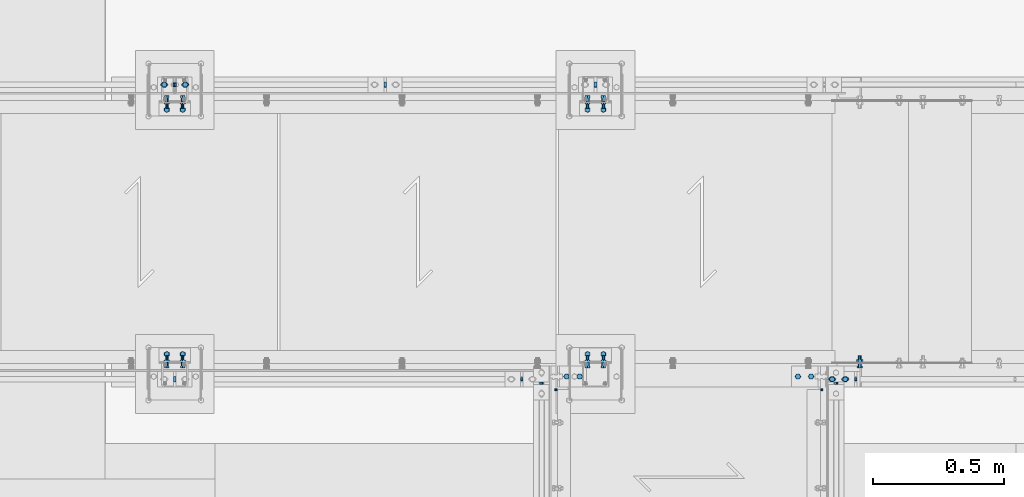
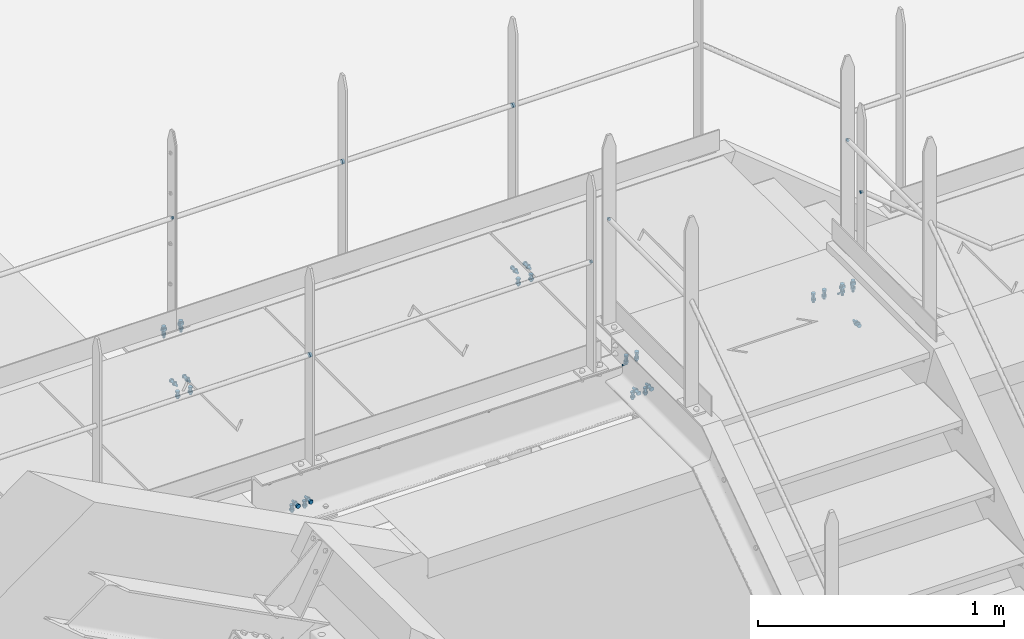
# One storey, part 302 of 362: 25 mechanical fasteners.
"""IFC2X3 building model written with IfcOpenShell, lengths in millimetres."""

from ifc_helpers import new_model, si_unit, frame, frame_2d, origin_with_axes, origin_2d_with_axis, place, context, subcontext, project, spatial, polyline, circle_curve, parameter, trimmed, segment, composite_curve, circle, outline, extrude, source, transform, mapped, material, type_object, element, save


model = new_model("IFC2X3")

# Units and contexts
model_context = context("Model", 3, precision=1e-05, world=origin_with_axes())
body_context = subcontext(model_context, "Body", "Model", "MODEL_VIEW")
ifc_project = project(units=[si_unit("LENGTHUNIT", "METRE", prefix="MILLI"), si_unit("AREAUNIT", "SQUARE_METRE"), si_unit("VOLUMEUNIT", "CUBIC_METRE"), si_unit("MASSUNIT", "GRAM", prefix="KILO"), si_unit("TIMEUNIT", "SECOND"), si_unit("PLANEANGLEUNIT", "RADIAN"), si_unit("SOLIDANGLEUNIT", "STERADIAN"), si_unit("THERMODYNAMICTEMPERATUREUNIT", "DEGREE_CELSIUS"), si_unit("LUMINOUSINTENSITYUNIT", "LUMEN")], contexts=[model_context])

# Site, building, storey
site_placement = place(None, origin_with_axes())
site = spatial("IfcSite", under=ifc_project, at=site_placement, Name="Undefined", CompositionType="ELEMENT")
building_placement = place(site_placement, origin_with_axes())
building = spatial("IfcBuilding", under=site, at=building_placement, Name="Undefined", CompositionType="ELEMENT")
storey_placement = place(building_placement, origin_with_axes())
storey = spatial("IfcBuildingStorey", under=building, at=storey_placement, Name="Undefined", CompositionType="ELEMENT", Elevation=0.0)

# Mechanical fasteners
ifc_material_1 = material(Name="6.8")
mechanical_fastener_type = type_object("IfcMechanicalFastenerType", Name="Bolt assembly")
shared_shape_1 = source(origin_with_axes(), body_context, "Body", "SweptSolid", [
    extrude(circle(Radius=11.0, at=origin_2d_with_axis()), frame((0.0, -5.00000000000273, 0.0), z_axis=(0.0, 1.0, 0.0), x_axis=(1.0, 0.0, 0.0)), (0.0, 0.0, 1.0), 10.1),
])
for number, where, z_axis, x_axis, name in (
    (1, (20054.9961849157, 15970.0000882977, 9243.80000001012), (0.0, 0.0, 1.0), (0.0, 1.0, 0.0), "Bolt assembly"),
    (2, (20854.9961849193, 17089.9938659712, 9243.80000001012), (0.0, 0.0, -1.0), (0.0, -1.0, 0.0), "Bolt assembly"),
    (3, (21654.9961849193, 17089.9938659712, 9243.80000001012), (0.0, 0.0, -1.0), (0.0, -1.0, 0.0), "Bolt assembly"),
):
    element("IfcMechanicalFastener", number, at=place(storey_placement, frame(where, z_axis=z_axis, x_axis=x_axis)), inside=storey, type_object=mechanical_fastener_type, material=ifc_material_1, Name=name, NominalDiameter=20.0, NominalLength=10.0, context=body_context, shape_type="MappedRepresentation", body=[
        mapped(shared_shape_1, transform((0.0, 0.0, 0.0))),
    ])
shared_shape_2 = source(origin_with_axes(), body_context, "Body", "SweptSolid", [
    extrude(circle(Radius=7.0, at=origin_2d_with_axis()), frame((0.0, -5.00000000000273, 0.0), z_axis=(0.0, 1.0, 0.0), x_axis=(1.0, 0.0, 0.0)), (0.0, 0.0, 1.0), 10.1),
])
for number, where, z_axis, x_axis, name in (
    (4, (21374.9851177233, 15970.0000882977, 9243.80000001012), (0.0, 0.0, -1.0), (0.0, 1.0, 0.0), "Bolt assembly"),
    (5, (21449.9863365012, 15954.9996531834, 9438.8), (0.0, 0.0, -1.0), (1.0, 0.0, 0.0), "Bolt assembly"),
    (6, (22569.9936634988, 15954.9996531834, 9438.8), (0.0, 0.0, 1.0), (-1.0, 0.0, 0.0), "Bolt assembly"),
):
    element("IfcMechanicalFastener", number, at=place(storey_placement, frame(where, z_axis=z_axis, x_axis=x_axis)), inside=storey, type_object=mechanical_fastener_type, material=ifc_material_1, Name=name, NominalDiameter=12.0, NominalLength=10.0, context=body_context, shape_type="MappedRepresentation", body=[
        mapped(shared_shape_2, transform((0.0, 0.0, 0.0))),
    ])
ifc_material_2 = material(Name="8.8-SB-GALVA")
shared_shape_3 = source(origin_with_axes(), body_context, "Body", "SweptSolid", [
    extrude(circle(Radius=7.0, at=origin_2d_with_axis()), frame((0.0, -0.100011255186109, 0.0), z_axis=(0.0, 1.0, 0.0), x_axis=(1.0, 0.0, 0.0)), (0.0, 0.0, 1.0), 12.9),
    extrude(outline(composite_curve([segment(polyline([(-7.0, 7.0), (7.0, 7.0)]), True, "CONTINUOUS"), segment(trimmed(circle_curve(frame_2d((7.0, 0.0), x_axis=(0.0, 1.0)), 7.0), [parameter(0.0)], [parameter(3.14159265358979)], False, "PARAMETER"), True, "CONTINUOUS"), segment(polyline([(7.0, -7.0), (-7.0, -7.0)]), True, "CONTINUOUS"), segment(trimmed(circle_curve(frame_2d((-7.0, 0.0), x_axis=(0.0, -1.0)), 7.0), [parameter(0.0)], [parameter(3.14159265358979)], False, "PARAMETER"), True, "DISCONTINUOUS")], self_intersect=False)), frame((0.0, -9.9, 0.0), z_axis=(0.0, 1.0, 0.0), x_axis=(1.0, 0.0, 0.0)), (0.0, 0.0, 1.0), 10.0),
    extrude(outline(polyline([(10.39230484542, 0.0), (5.19615242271, 9.00000000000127), (-5.19615242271, 9.00000000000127), (-10.39230484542, 0.0), (-5.19615242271, -9.00000000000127), (5.19615242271, -9.00000000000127), (10.39230484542, 0.0)])), frame((0.0, -21.88, 0.0), z_axis=(0.0, 1.0, 0.0), x_axis=(1.0, 0.0, 0.0)), (0.0, 0.0, 1.0), 7.92),
    extrude(circle(Radius=6.0, at=origin_2d_with_axis()), frame((0.0, -13.96, 0.0), z_axis=(0.0, 1.0, 0.0), x_axis=(1.0, 0.0, 0.0)), (0.0, 0.0, 1.0), 50.0),
    extrude(circle(Radius=10.8, at=origin_2d_with_axis()), frame((0.0, -13.96, 0.0), z_axis=(0.0, 1.0, 0.0), x_axis=(1.0, 0.0, 0.0)), (0.0, 0.0, 1.0), 3.96),
    extrude(outline(polyline([(11.5008173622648, 0.0), (5.7504086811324, 9.96000000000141), (-5.7504086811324, 9.96000000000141), (-11.5008173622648, 0.0), (-5.7504086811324, -9.96000000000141), (5.7504086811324, -9.96000000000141), (11.5008173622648, 0.0)])), frame((0.0, 12.7997611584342, 0.0), z_axis=(0.0, 1.0, 0.0), x_axis=(1.0, 0.0, 0.0)), (0.0, 0.0, 1.0), 7.92),
])
mechanical_fastener_1_placement = place(storey_placement, frame((22555.0061849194, 15970.0000882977, 8700.00015961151), z_axis=(0.0, 1.0, 0.0), x_axis=(1.0, 0.0, 0.0)))
element("IfcMechanicalFastener", 7, at=mechanical_fastener_1_placement, inside=storey, type_object=mechanical_fastener_type, material=ifc_material_2, Name="Bolt assembly", NominalDiameter=12.0, NominalLength=50.0, context=body_context, shape_type="MappedRepresentation", body=[
    mapped(shared_shape_3, transform((0.0, 0.0, 0.0))),
    mapped(shared_shape_3, transform((49.9999999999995, 0.0, -3.63797880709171e-12))),
])
shared_shape_4 = source(origin_with_axes(), body_context, "Body", "SweptSolid", [
    extrude(circle(Radius=7.0, at=origin_2d_with_axis()), frame((0.0, 0.0, 0.0), z_axis=(0.0, 1.0, 0.0), x_axis=(1.0, 0.0, 0.0)), (0.0, 0.0, 1.0), 10.1),
])
mechanical_fastener_2_placement = place(storey_placement, frame((22650.0061849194, 15970.0000882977, 9145.70267124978), z_axis=(0.0, 0.0, 1.0), x_axis=(0.0, 1.0, 0.0)))
element("IfcMechanicalFastener", 8, at=mechanical_fastener_2_placement, inside=storey, type_object=mechanical_fastener_type, material=ifc_material_1, Name="Bolt assembly", NominalDiameter=12.0, NominalLength=10.0, context=body_context, shape_type="MappedRepresentation", body=[
    mapped(shared_shape_4, transform((0.0, 0.0, 0.0))),
])
shared_shape_5 = source(origin_with_axes(), body_context, "Body", "SweptSolid", [
    extrude(circle(Radius=7.0, at=origin_2d_with_axis()), frame((0.0, -0.100011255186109, 0.0), z_axis=(0.0, 1.0, 0.0), x_axis=(1.0, 0.0, 0.0)), (0.0, 0.0, 1.0), 12.9),
    extrude(outline(composite_curve([segment(polyline([(-7.0, 7.0), (7.0, 7.0)]), True, "CONTINUOUS"), segment(trimmed(circle_curve(frame_2d((7.0, 0.0), x_axis=(0.0, 1.0)), 7.0), [parameter(0.0)], [parameter(3.14159265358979)], False, "PARAMETER"), True, "CONTINUOUS"), segment(polyline([(7.0, -7.0), (-7.0, -7.0)]), True, "CONTINUOUS"), segment(trimmed(circle_curve(frame_2d((-7.0, 0.0), x_axis=(0.0, -1.0)), 7.0), [parameter(0.0)], [parameter(3.14159265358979)], False, "PARAMETER"), True, "DISCONTINUOUS")], self_intersect=False)), frame((0.0, -9.9, 0.0), z_axis=(0.0, 1.0, 0.0), x_axis=(1.0, 0.0, 0.0)), (0.0, 0.0, 1.0), 10.0),
    extrude(outline(polyline([(10.39230484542, 0.0), (5.19615242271, 9.00000000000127), (-5.19615242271, 9.00000000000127), (-10.39230484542, 0.0), (-5.19615242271, -9.00000000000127), (5.19615242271, -9.00000000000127), (10.39230484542, 0.0)])), frame((0.0, -21.88, 0.0), z_axis=(0.0, 1.0, 0.0), x_axis=(1.0, 0.0, 0.0)), (0.0, 0.0, 1.0), 7.92),
    extrude(circle(Radius=6.0, at=origin_2d_with_axis()), frame((0.0, -13.96, 0.0), z_axis=(0.0, 1.0, 0.0), x_axis=(1.0, 0.0, 0.0)), (0.0, 0.0, 1.0), 50.0),
    extrude(circle(Radius=10.8, at=origin_2d_with_axis()), frame((0.0, -13.96, 0.0), z_axis=(0.0, 1.0, 0.0), x_axis=(1.0, 0.0, 0.0)), (0.0, 0.0, 1.0), 3.96),
    extrude(outline(polyline([(11.5008173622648, 0.0), (5.7504086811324, 9.96000000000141), (-5.7504086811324, 9.96000000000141), (-11.5008173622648, 0.0), (-5.7504086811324, -9.96000000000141), (5.7504086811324, -9.96000000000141), (11.5008173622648, 0.0)])), frame((0.0, 12.800464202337, 0.0), z_axis=(0.0, 1.0, 0.0), x_axis=(1.0, 0.0, 0.0)), (0.0, 0.0, 1.0), 7.92),
])
mechanical_fastener_3_placement = place(storey_placement, frame((20094.9899902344, 17089.9938659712, 8700.00000001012), z_axis=(0.0, -1.0, 0.0), x_axis=(-1.0, 0.0, 0.0)))
element("IfcMechanicalFastener", 9, at=mechanical_fastener_3_placement, inside=storey, type_object=mechanical_fastener_type, material=ifc_material_2, Name="Bolt assembly", NominalDiameter=12.0, NominalLength=50.0, context=body_context, shape_type="MappedRepresentation", body=[
    mapped(shared_shape_5, transform((0.0, 0.0, 0.0))),
])
shared_shape_6 = source(origin_with_axes(), body_context, "Body", "SweptSolid", [
    extrude(circle(Radius=7.0, at=origin_2d_with_axis()), frame((0.0, -2.5, 0.0), z_axis=(0.0, 1.0, 0.0), x_axis=(1.0, 0.0, 0.0)), (0.0, 0.0, 1.0), 5.1),
])
for number, where, z_axis, x_axis, name in (
    (10, (20057.4961849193, 17089.9938659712, 9243.80000001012), (0.0, 0.0, 1.0), (0.0, -1.0, 0.0), "Bolt assembly"),
    (11, (20052.4961849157, 17089.9938659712, 9243.80000001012), (0.0, 0.0, -1.0), (0.0, -1.0, 0.0), "Bolt assembly"),
):
    element("IfcMechanicalFastener", number, at=place(storey_placement, frame(where, z_axis=z_axis, x_axis=x_axis)), inside=storey, type_object=mechanical_fastener_type, material=ifc_material_1, Name=name, NominalDiameter=12.0, NominalLength=5.0, context=body_context, shape_type="MappedRepresentation", body=[
        mapped(shared_shape_6, transform((0.0, 0.0, 0.0))),
    ])
shared_shape_7 = source(origin_with_axes(), body_context, "Body", "SweptSolid", [
    extrude(circle(Radius=7.0, at=origin_2d_with_axis()), frame((0.0, -0.100011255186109, 0.0), z_axis=(0.0, 1.0, 0.0), x_axis=(1.0, 0.0, 0.0)), (0.0, 0.0, 1.0), 12.9),
    extrude(outline(composite_curve([segment(polyline([(-7.0, 7.0), (7.0, 7.0)]), True, "CONTINUOUS"), segment(trimmed(circle_curve(frame_2d((7.0, 0.0), x_axis=(0.0, 1.0)), 7.0), [parameter(0.0)], [parameter(3.14159265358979)], False, "PARAMETER"), True, "CONTINUOUS"), segment(polyline([(7.0, -7.0), (-7.0, -7.0)]), True, "CONTINUOUS"), segment(trimmed(circle_curve(frame_2d((-7.0, 0.0), x_axis=(0.0, -1.0)), 7.0), [parameter(0.0)], [parameter(3.14159265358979)], False, "PARAMETER"), True, "DISCONTINUOUS")], self_intersect=False)), frame((0.0, -9.9, 0.0), z_axis=(0.0, 1.0, 0.0), x_axis=(1.0, 0.0, 0.0)), (0.0, 0.0, 1.0), 10.0),
    extrude(outline(polyline([(10.39230484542, 0.0), (5.19615242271, 9.00000000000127), (-5.19615242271, 9.00000000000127), (-10.39230484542, 0.0), (-5.19615242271, -9.00000000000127), (5.19615242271, -9.00000000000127), (10.39230484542, 0.0)])), frame((0.0, -21.88, 0.0), z_axis=(0.0, 1.0, 0.0), x_axis=(1.0, 0.0, 0.0)), (0.0, 0.0, 1.0), 7.92),
    extrude(circle(Radius=6.0, at=origin_2d_with_axis()), frame((0.0, -13.96, 0.0), z_axis=(0.0, 1.0, 0.0), x_axis=(1.0, 0.0, 0.0)), (0.0, 0.0, 1.0), 50.0),
    extrude(circle(Radius=10.8, at=origin_2d_with_axis()), frame((0.0, -13.96, 0.0), z_axis=(0.0, 1.0, 0.0), x_axis=(1.0, 0.0, 0.0)), (0.0, 0.0, 1.0), 3.96),
    extrude(outline(polyline([(11.5008173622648, 0.0), (5.7504086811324, 9.96000000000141), (-5.7504086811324, 9.96000000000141), (-11.5008173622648, 0.0), (-5.7504086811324, -9.96000000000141), (5.7504086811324, -9.96000000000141), (11.5008173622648, 0.0)])), frame((0.0, 12.800464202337, 0.0), z_axis=(0.0, 1.0, 0.0), x_axis=(1.0, 0.0, 0.0)), (0.0, 0.0, 1.0), 7.92),
])
mechanical_fastener_4_placement = place(storey_placement, frame((20015.0023796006, 17089.9938659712, 8700.00000001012), z_axis=(0.0, 1.0, 0.0), x_axis=(1.0, 0.0, 0.0)))
element("IfcMechanicalFastener", 12, at=mechanical_fastener_4_placement, inside=storey, type_object=mechanical_fastener_type, material=ifc_material_2, Name="Bolt assembly", NominalDiameter=12.0, NominalLength=50.0, context=body_context, shape_type="MappedRepresentation", body=[
    mapped(shared_shape_7, transform((0.0, 0.0, 0.0))),
])
shared_shape_8 = source(origin_with_axes(), body_context, "Body", "SweptSolid", [
    extrude(circle(Radius=7.0, at=origin_2d_with_axis()), frame((0.0, -0.10007666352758, 0.0), z_axis=(0.0, 1.0, 0.0), x_axis=(1.0, 0.0, 0.0)), (0.0, 0.0, 1.0), 8.1),
    extrude(circle(Radius=7.0, at=origin_2d_with_axis()), frame((0.0, -5.8999542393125, 0.0), z_axis=(0.0, 1.0, 0.0), x_axis=(1.0, 0.0, 0.0)), (0.0, 0.0, 1.0), 6.0),
    extrude(outline(polyline([(10.39230484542, 0.0), (5.19615242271, 9.00000000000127), (-5.19615242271, 9.00000000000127), (-10.39230484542, 0.0), (-5.19615242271, -9.00000000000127), (5.19615242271, -9.00000000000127), (10.39230484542, 0.0)])), frame((0.0, -13.9199542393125, 0.0), z_axis=(0.0, 1.0, 0.0), x_axis=(1.0, 0.0, 0.0)), (0.0, 0.0, 1.0), 7.92),
    extrude(circle(Radius=6.0, at=origin_2d_with_axis()), frame((0.0, -5.9999542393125, 0.0), z_axis=(0.0, 1.0, 0.0), x_axis=(1.0, 0.0, 0.0)), (0.0, 0.0, 1.0), 30.0),
    extrude(outline(polyline([(11.5008173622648, 0.0), (5.7504086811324, 9.96000000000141), (-5.7504086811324, 9.96000000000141), (-11.5008173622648, 0.0), (-5.7504086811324, -9.96000000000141), (5.7504086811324, -9.96000000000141), (11.5008173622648, 0.0)])), frame((0.0, 7.99992914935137, 0.0), z_axis=(0.0, 1.0, 0.0), x_axis=(1.0, 0.0, 0.0)), (0.0, 0.0, 1.0), 7.92),
])
mechanical_fastener_5_placement = place(storey_placement, frame((20055.0, 16065.0001225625, 8440.00004576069), z_axis=(1.0, 0.0, 0.0), x_axis=(0.0, -1.0, 0.0)))
element("IfcMechanicalFastener", 13, at=mechanical_fastener_5_placement, inside=storey, type_object=mechanical_fastener_type, material=ifc_material_2, Name="Bolt assembly", NominalDiameter=12.0, NominalLength=30.0, context=body_context, shape_type="MappedRepresentation", body=[
    mapped(shared_shape_8, transform((0.0, 0.0, 30.0))),
    mapped(shared_shape_8, transform((0.0, 0.0, -30.0))),
])
mechanical_fastener_6_placement = place(storey_placement, frame((20055.0, 16994.9998774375, 8440.00004576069), z_axis=(-1.0, 0.0, 0.0), x_axis=(0.0, 1.0, 0.0)))
element("IfcMechanicalFastener", 14, at=mechanical_fastener_6_placement, inside=storey, type_object=mechanical_fastener_type, material=ifc_material_2, Name="Bolt assembly", NominalDiameter=12.0, NominalLength=30.0, context=body_context, shape_type="MappedRepresentation", body=[
    mapped(shared_shape_8, transform((0.0, 0.0, -30.0))),
    mapped(shared_shape_8, transform((0.0, 0.0, 30.0))),
])
mechanical_fastener_7_placement = place(storey_placement, frame((21655.0, 16065.0001225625, 8440.00004576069), z_axis=(1.0, 0.0, 0.0), x_axis=(0.0, -1.0, 0.0)))
element("IfcMechanicalFastener", 15, at=mechanical_fastener_7_placement, inside=storey, type_object=mechanical_fastener_type, material=ifc_material_2, Name="Bolt assembly", NominalDiameter=12.0, NominalLength=30.0, context=body_context, shape_type="MappedRepresentation", body=[
    mapped(shared_shape_8, transform((0.0, 0.0, 30.0))),
    mapped(shared_shape_8, transform((0.0, 0.0, -30.0))),
])
mechanical_fastener_8_placement = place(storey_placement, frame((21655.0, 16994.9998774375, 8440.00004576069), z_axis=(-1.0, 0.0, 0.0), x_axis=(0.0, 1.0, 0.0)))
element("IfcMechanicalFastener", 16, at=mechanical_fastener_8_placement, inside=storey, type_object=mechanical_fastener_type, material=ifc_material_2, Name="Bolt assembly", NominalDiameter=12.0, NominalLength=30.0, context=body_context, shape_type="MappedRepresentation", body=[
    mapped(shared_shape_8, transform((0.0, 0.0, -30.0))),
    mapped(shared_shape_8, transform((0.0, 0.0, 30.0))),
])
shared_shape_9 = source(origin_with_axes(), body_context, "Body", "SweptSolid", [
    extrude(circle(Radius=4.0, at=origin_2d_with_axis()), frame((0.0, -44.9964209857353, 0.0), z_axis=(0.0, 1.0, 0.0), x_axis=(1.0, 0.0, 0.0)), (0.0, 0.0, 1.0), 10.1),
])
for number, where, z_axis, x_axis, name in (
    (17, (22555.0019070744, 15930.0036039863, 8710.00016784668), (0.0, -1.0, 0.0), (0.0, 0.0, -1.0), "Bolt assembly"),
    (18, (21465.0061245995, 15930.0036039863, 8710.00016784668), (0.0, 1.0, 0.0), (0.0, 0.0, -1.0), "Bolt assembly"),
):
    element("IfcMechanicalFastener", number, at=place(storey_placement, frame(where, z_axis=z_axis, x_axis=x_axis)), inside=storey, type_object=mechanical_fastener_type, material=ifc_material_1, Name=name, NominalDiameter=6.0, NominalLength=10.0, context=body_context, shape_type="MappedRepresentation", body=[
        mapped(shared_shape_9, transform((0.0, 0.0, 0.0))),
    ])
shared_shape_10 = source(origin_with_axes(), body_context, "Body", "SweptSolid", [
    extrude(circle(Radius=7.0, at=origin_2d_with_axis()), frame((0.0, -0.100155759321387, 0.0), z_axis=(0.0, 1.0, 0.0), x_axis=(1.0, 0.0, 0.0)), (0.0, 0.0, 1.0), 13.7),
    extrude(circle(Radius=7.0, at=origin_2d_with_axis()), frame((0.0, -7.9, 0.0), z_axis=(0.0, 1.0, 0.0), x_axis=(1.0, 0.0, 0.0)), (0.0, 0.0, 1.0), 8.0),
    extrude(outline(polyline([(10.39230484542, 0.0), (5.19615242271, 9.00000000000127), (-5.19615242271, 9.00000000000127), (-10.39230484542, 0.0), (-5.19615242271, -9.00000000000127), (5.19615242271, -9.00000000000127), (10.39230484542, 0.0)])), frame((0.0, -15.92, 0.0), z_axis=(0.0, 1.0, 0.0), x_axis=(1.0, 0.0, 0.0)), (0.0, 0.0, 1.0), 7.92),
    extrude(circle(Radius=6.0, at=origin_2d_with_axis()), frame((0.0, -8.0, 0.0), z_axis=(0.0, 1.0, 0.0), x_axis=(1.0, 0.0, 0.0)), (0.0, 0.0, 1.0), 40.0),
    extrude(outline(polyline([(11.5008173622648, 0.0), (5.7504086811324, 9.96000000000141), (-5.7504086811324, 9.96000000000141), (-11.5008173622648, 0.0), (-5.7504086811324, -9.96000000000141), (5.7504086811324, -9.96000000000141), (11.5008173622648, 0.0)])), frame((0.0, 13.6000382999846, 0.0), z_axis=(0.0, 1.0, 0.0), x_axis=(1.0, 0.0, 0.0)), (0.0, 0.0, 1.0), 7.92),
])
mechanical_fastener_9_placement = place(storey_placement, frame((22425.0050724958, 15980.0058471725, 8700.0), z_axis=(0.0, 1.0, 0.0), x_axis=(1.0, 0.0, 0.0)))
element("IfcMechanicalFastener", 19, at=mechanical_fastener_9_placement, inside=storey, type_object=mechanical_fastener_type, material=ifc_material_2, Name="Bolt assembly", NominalDiameter=12.0, NominalLength=40.0, context=body_context, shape_type="MappedRepresentation", body=[
    mapped(shared_shape_10, transform((0.0, 0.0, 0.0))),
    mapped(shared_shape_10, transform((49.9999999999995, 0.0, -3.63797880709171e-12))),
])
shared_shape_11 = source(origin_with_axes(), body_context, "Body", "SweptSolid", [
    extrude(circle(Radius=7.0, at=origin_2d_with_axis()), frame((0.0, -0.10007666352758, 0.0), z_axis=(0.0, 1.0, 0.0), x_axis=(1.0, 0.0, 0.0)), (0.0, 0.0, 1.0), 13.7),
    extrude(circle(Radius=7.0, at=origin_2d_with_axis()), frame((0.0, -7.9, 0.0), z_axis=(0.0, 1.0, 0.0), x_axis=(1.0, 0.0, 0.0)), (0.0, 0.0, 1.0), 8.0),
    extrude(outline(polyline([(10.39230484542, 0.0), (5.19615242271, 9.00000000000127), (-5.19615242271, 9.00000000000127), (-10.39230484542, 0.0), (-5.19615242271, -9.00000000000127), (5.19615242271, -9.00000000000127), (10.39230484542, 0.0)])), frame((0.0, -15.92, 0.0), z_axis=(0.0, 1.0, 0.0), x_axis=(1.0, 0.0, 0.0)), (0.0, 0.0, 1.0), 7.92),
    extrude(circle(Radius=6.0, at=origin_2d_with_axis()), frame((0.0, -8.0, 0.0), z_axis=(0.0, 1.0, 0.0), x_axis=(1.0, 0.0, 0.0)), (0.0, 0.0, 1.0), 40.0),
    extrude(outline(polyline([(11.5008173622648, 0.0), (5.7504086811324, 9.96000000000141), (-5.7504086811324, 9.96000000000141), (-11.5008173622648, 0.0), (-5.7504086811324, -9.96000000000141), (5.7504086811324, -9.96000000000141), (11.5008173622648, 0.0)])), frame((0.0, 13.6001780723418, 0.0), z_axis=(0.0, 1.0, 0.0), x_axis=(1.0, 0.0, 0.0)), (0.0, 0.0, 1.0), 7.92),
])
mechanical_fastener_10_placement = place(storey_placement, frame((21595.0029591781, 15980.0058471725, 8700.0), z_axis=(0.0, -1.0, 0.0), x_axis=(-1.0, 0.0, 0.0)))
element("IfcMechanicalFastener", 20, at=mechanical_fastener_10_placement, inside=storey, type_object=mechanical_fastener_type, material=ifc_material_2, Name="Bolt assembly", NominalDiameter=12.0, NominalLength=40.0, context=body_context, shape_type="MappedRepresentation", body=[
    mapped(shared_shape_11, transform((0.0, 0.0, 0.0))),
    mapped(shared_shape_11, transform((49.9999999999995, 0.0, -3.63797880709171e-12))),
])
shared_shape_12 = source(origin_with_axes(), body_context, "Body", "SweptSolid", [
    extrude(circle(Radius=7.0, at=origin_2d_with_axis()), frame((0.0, -9.89758021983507, 0.0), z_axis=(0.0, 1.0, 0.0), x_axis=(1.0, 0.0, 0.0)), (0.0, 0.0, 1.0), 10.0),
    extrude(circle(Radius=7.0, at=origin_2d_with_axis()), frame((0.0, -0.100011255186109, 0.0), z_axis=(0.0, 1.0, 0.0), x_axis=(1.0, 0.0, 0.0)), (0.0, 0.0, 1.0), 6.1),
    extrude(outline(polyline([(10.39230484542, 0.0), (5.19615242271, 9.00000000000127), (-5.19615242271, 9.00000000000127), (-10.39230484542, 0.0), (-5.19615242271, -9.00000000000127), (5.19615242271, -9.00000000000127), (10.39230484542, 0.0)])), frame((0.0, -17.9175802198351, 0.0), z_axis=(0.0, 1.0, 0.0), x_axis=(1.0, 0.0, 0.0)), (0.0, 0.0, 1.0), 7.92),
    extrude(circle(Radius=6.0, at=origin_2d_with_axis()), frame((0.0, -9.99758021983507, 0.0), z_axis=(0.0, 1.0, 0.0), x_axis=(1.0, 0.0, 0.0)), (0.0, 0.0, 1.0), 40.0),
    extrude(outline(polyline([(11.5008173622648, 0.0), (5.7504086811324, 9.96000000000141), (-5.7504086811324, 9.96000000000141), (-11.5008173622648, 0.0), (-5.7504086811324, -9.96000000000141), (5.7504086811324, -9.96000000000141), (11.5008173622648, 0.0)])), frame((0.0, 6.0, 0.0), z_axis=(0.0, 1.0, 0.0), x_axis=(1.0, 0.0, 0.0)), (0.0, 0.0, 1.0), 7.92),
])
mechanical_fastener_11_placement = place(storey_placement, frame((21655.0, 17029.9998774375, 8475.00004576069), z_axis=(-1.0, 0.0, 0.0), x_axis=(0.0, 0.0, -1.0)))
element("IfcMechanicalFastener", 21, at=mechanical_fastener_11_placement, inside=storey, type_object=mechanical_fastener_type, material=ifc_material_2, Name="Bolt assembly", NominalDiameter=12.0, NominalLength=40.0, context=body_context, shape_type="MappedRepresentation", body=[
    mapped(shared_shape_12, transform((0.0, 0.0, -30.0))),
    mapped(shared_shape_12, transform((0.0, 0.0, 30.0))),
])
shared_shape_13 = source(origin_with_axes(), body_context, "Body", "SweptSolid", [
    extrude(circle(Radius=7.0, at=origin_2d_with_axis()), frame((0.0, -9.89766341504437, 0.0), z_axis=(0.0, 1.0, 0.0), x_axis=(1.0, 0.0, 0.0)), (0.0, 0.0, 1.0), 10.0),
    extrude(circle(Radius=7.0, at=origin_2d_with_axis()), frame((0.0, -0.100011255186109, 0.0), z_axis=(0.0, 1.0, 0.0), x_axis=(1.0, 0.0, 0.0)), (0.0, 0.0, 1.0), 6.1),
    extrude(outline(polyline([(10.39230484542, 0.0), (5.19615242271, 9.00000000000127), (-5.19615242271, 9.00000000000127), (-10.39230484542, 0.0), (-5.19615242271, -9.00000000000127), (5.19615242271, -9.00000000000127), (10.39230484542, 0.0)])), frame((0.0, -17.9176634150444, 0.0), z_axis=(0.0, 1.0, 0.0), x_axis=(1.0, 0.0, 0.0)), (0.0, 0.0, 1.0), 7.92),
    extrude(circle(Radius=6.0, at=origin_2d_with_axis()), frame((0.0, -9.99766341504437, 0.0), z_axis=(0.0, 1.0, 0.0), x_axis=(1.0, 0.0, 0.0)), (0.0, 0.0, 1.0), 40.0),
    extrude(outline(polyline([(11.5008173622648, 0.0), (5.7504086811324, 9.96000000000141), (-5.7504086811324, 9.96000000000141), (-11.5008173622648, 0.0), (-5.7504086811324, -9.96000000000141), (5.7504086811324, -9.96000000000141), (11.5008173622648, 0.0)])), frame((0.0, 6.0, 0.0), z_axis=(0.0, 1.0, 0.0), x_axis=(1.0, 0.0, 0.0)), (0.0, 0.0, 1.0), 7.92),
])
mechanical_fastener_12_placement = place(storey_placement, frame((21655.0, 16030.0001225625, 8475.00004576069), z_axis=(1.0, 0.0, 0.0), x_axis=(0.0, 0.0, -1.0)))
element("IfcMechanicalFastener", 22, at=mechanical_fastener_12_placement, inside=storey, type_object=mechanical_fastener_type, material=ifc_material_2, Name="Bolt assembly", NominalDiameter=12.0, NominalLength=40.0, context=body_context, shape_type="MappedRepresentation", body=[
    mapped(shared_shape_13, transform((0.0, 0.0, 30.0))),
    mapped(shared_shape_13, transform((0.0, 0.0, -30.0))),
])
shared_shape_14 = source(origin_with_axes(), body_context, "Body", "SweptSolid", [
    extrude(circle(Radius=7.0, at=origin_2d_with_axis()), frame((0.0, -9.8996134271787, 0.0), z_axis=(0.0, 1.0, 0.0), x_axis=(1.0, 0.0, 0.0)), (0.0, 0.0, 1.0), 10.0),
    extrude(circle(Radius=7.0, at=origin_2d_with_axis()), frame((0.0, -0.100011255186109, 0.0), z_axis=(0.0, 1.0, 0.0), x_axis=(1.0, 0.0, 0.0)), (0.0, 0.0, 1.0), 6.1),
    extrude(outline(polyline([(10.39230484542, 0.0), (5.19615242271, 9.00000000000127), (-5.19615242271, 9.00000000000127), (-10.39230484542, 0.0), (-5.19615242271, -9.00000000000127), (5.19615242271, -9.00000000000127), (10.39230484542, 0.0)])), frame((0.0, -17.9196134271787, 0.0), z_axis=(0.0, 1.0, 0.0), x_axis=(1.0, 0.0, 0.0)), (0.0, 0.0, 1.0), 7.92),
    extrude(circle(Radius=6.0, at=origin_2d_with_axis()), frame((0.0, -9.9996134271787, 0.0), z_axis=(0.0, 1.0, 0.0), x_axis=(1.0, 0.0, 0.0)), (0.0, 0.0, 1.0), 40.0),
    extrude(outline(polyline([(11.5008173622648, 0.0), (5.7504086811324, 9.96000000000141), (-5.7504086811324, 9.96000000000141), (-11.5008173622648, 0.0), (-5.7504086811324, -9.96000000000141), (5.7504086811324, -9.96000000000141), (11.5008173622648, 0.0)])), frame((0.0, 6.0, 0.0), z_axis=(0.0, 1.0, 0.0), x_axis=(1.0, 0.0, 0.0)), (0.0, 0.0, 1.0), 7.92),
])
mechanical_fastener_13_placement = place(storey_placement, frame((20055.0, 17029.9998774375, 8475.0), z_axis=(-1.0, 0.0, 0.0), x_axis=(0.0, 0.0, -1.0)))
element("IfcMechanicalFastener", 23, at=mechanical_fastener_13_placement, inside=storey, type_object=mechanical_fastener_type, material=ifc_material_2, Name="Bolt assembly", NominalDiameter=12.0, NominalLength=40.0, context=body_context, shape_type="MappedRepresentation", body=[
    mapped(shared_shape_14, transform((0.0, 0.0, -30.0))),
    mapped(shared_shape_14, transform((0.0, 0.0, 30.0))),
])
shared_shape_15 = source(origin_with_axes(), body_context, "Body", "SweptSolid", [
    extrude(circle(Radius=7.0, at=origin_2d_with_axis()), frame((0.0, -9.9, 0.0), z_axis=(0.0, 1.0, 0.0), x_axis=(1.0, 0.0, 0.0)), (0.0, 0.0, 1.0), 10.0),
    extrude(outline(composite_curve([segment(polyline([(-7.0, 7.0), (7.0, 7.0)]), True, "CONTINUOUS"), segment(trimmed(circle_curve(frame_2d((7.0, 0.0), x_axis=(0.0, 1.0)), 7.0), [parameter(0.0)], [parameter(3.14159265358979)], False, "PARAMETER"), True, "CONTINUOUS"), segment(polyline([(7.0, -7.0), (-7.0, -7.0)]), True, "CONTINUOUS"), segment(trimmed(circle_curve(frame_2d((-7.0, 0.0), x_axis=(0.0, -1.0)), 7.0), [parameter(0.0)], [parameter(3.14159265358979)], False, "PARAMETER"), True, "DISCONTINUOUS")], self_intersect=False)), frame((0.0, -0.100011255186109, 0.0), z_axis=(0.0, 1.0, 0.0), x_axis=(1.0, 0.0, 0.0)), (0.0, 0.0, 1.0), 3.1),
    extrude(outline(polyline([(10.39230484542, 0.0), (5.19615242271, 9.00000000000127), (-5.19615242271, 9.00000000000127), (-10.39230484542, 0.0), (-5.19615242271, -9.00000000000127), (5.19615242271, -9.00000000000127), (10.39230484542, 0.0)])), frame((0.0, -17.92, 0.0), z_axis=(0.0, 1.0, 0.0), x_axis=(1.0, 0.0, 0.0)), (0.0, 0.0, 1.0), 7.92),
    extrude(circle(Radius=6.0, at=origin_2d_with_axis()), frame((0.0, -10.0000010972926, 0.0), z_axis=(0.0, 1.0, 0.0), x_axis=(1.0, 0.0, 0.0)), (0.0, 0.0, 1.0), 40.0),
    extrude(circle(Radius=10.8, at=origin_2d_with_axis()), frame((0.0, 3.00000067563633, 0.0), z_axis=(0.0, 1.0, 0.0), x_axis=(1.0, 0.0, 0.0)), (0.0, 0.0, 1.0), 3.96),
    extrude(outline(polyline([(11.5008173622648, 0.0), (5.7504086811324, 9.96000000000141), (-5.7504086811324, 9.96000000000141), (-11.5008173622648, 0.0), (-5.7504086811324, -9.96000000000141), (5.7504086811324, -9.96000000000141), (11.5008173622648, 0.0)])), frame((0.0, 6.96, 0.0), z_axis=(0.0, 1.0, 0.0), x_axis=(1.0, 0.0, 0.0)), (0.0, 0.0, 1.0), 7.92),
])
mechanical_fastener_14_placement = place(storey_placement, frame((22659.9999902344, 16029.9998774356, 8448.3299407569), z_axis=(0.0, 0.0, -1.0), x_axis=(-1.0, 0.0, 0.0)))
element("IfcMechanicalFastener", 24, at=mechanical_fastener_14_placement, inside=storey, type_object=mechanical_fastener_type, material=ifc_material_2, Name="Bolt assembly", NominalDiameter=12.0, NominalLength=40.0, context=body_context, shape_type="MappedRepresentation", body=[
    mapped(shared_shape_15, transform((0.0, 0.0, 0.0))),
])
shared_shape_16 = source(origin_with_axes(), body_context, "Body", "SweptSolid", [
    extrude(circle(Radius=7.0, at=origin_2d_with_axis()), frame((0.0, -9.89987141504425, 0.0), z_axis=(0.0, 1.0, 0.0), x_axis=(1.0, 0.0, 0.0)), (0.0, 0.0, 1.0), 10.0),
    extrude(circle(Radius=7.0, at=origin_2d_with_axis()), frame((0.0, -0.100011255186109, 0.0), z_axis=(0.0, 1.0, 0.0), x_axis=(1.0, 0.0, 0.0)), (0.0, 0.0, 1.0), 6.1),
    extrude(outline(polyline([(10.39230484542, 0.0), (5.19615242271, 9.00000000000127), (-5.19615242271, 9.00000000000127), (-10.39230484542, 0.0), (-5.19615242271, -9.00000000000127), (5.19615242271, -9.00000000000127), (10.39230484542, 0.0)])), frame((0.0, -17.9198714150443, 0.0), z_axis=(0.0, 1.0, 0.0), x_axis=(1.0, 0.0, 0.0)), (0.0, 0.0, 1.0), 7.92),
    extrude(circle(Radius=6.0, at=origin_2d_with_axis()), frame((0.0, -9.99987141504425, 0.0), z_axis=(0.0, 1.0, 0.0), x_axis=(1.0, 0.0, 0.0)), (0.0, 0.0, 1.0), 40.0),
    extrude(outline(polyline([(11.5008173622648, 0.0), (5.7504086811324, 9.96000000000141), (-5.7504086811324, 9.96000000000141), (-11.5008173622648, 0.0), (-5.7504086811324, -9.96000000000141), (5.7504086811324, -9.96000000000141), (11.5008173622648, 0.0)])), frame((0.0, 6.0, 0.0), z_axis=(0.0, 1.0, 0.0), x_axis=(1.0, 0.0, 0.0)), (0.0, 0.0, 1.0), 7.92),
])
mechanical_fastener_15_placement = place(storey_placement, frame((20055.0, 16030.0001225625, 8475.0), z_axis=(1.0, 0.0, 0.0), x_axis=(0.0, 0.0, -1.0)))
element("IfcMechanicalFastener", 25, at=mechanical_fastener_15_placement, inside=storey, type_object=mechanical_fastener_type, material=ifc_material_2, Name="Bolt assembly", NominalDiameter=12.0, NominalLength=40.0, context=body_context, shape_type="MappedRepresentation", body=[
    mapped(shared_shape_16, transform((0.0, 0.0, 30.0))),
    mapped(shared_shape_16, transform((0.0, 0.0, -30.0))),
])

save(model, "model.ifc")
